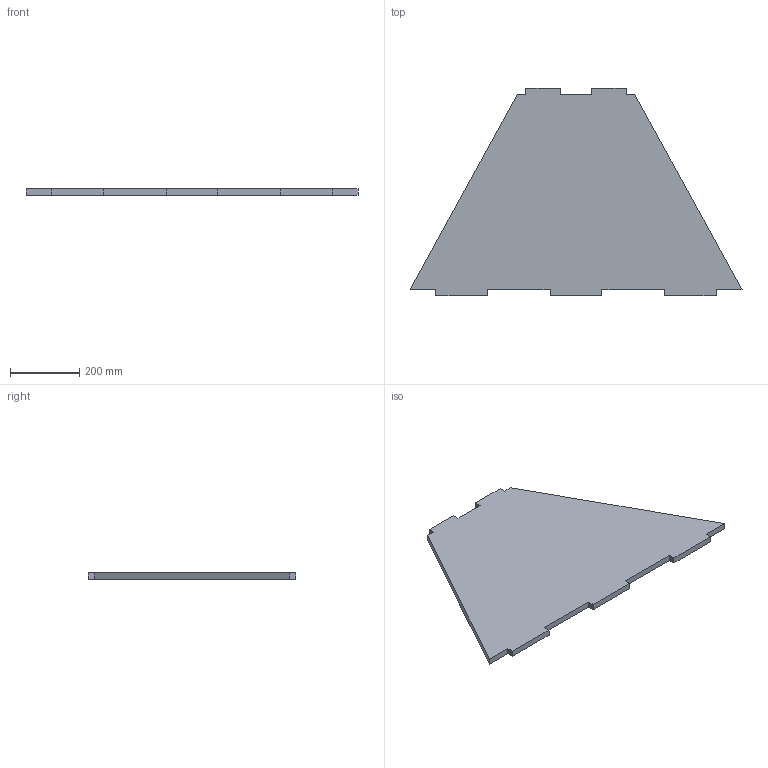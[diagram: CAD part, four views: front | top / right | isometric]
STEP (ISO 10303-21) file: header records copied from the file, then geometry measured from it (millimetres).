
FILE_DESCRIPTION(('Open CASCADE Model'),'2;1');
FILE_NAME('Open CASCADE Shape Model','2026-09-27T09:36:25',('Author'),( 'Open CASCADE'),'Open CASCADE STEP processor 7.9','Open CASCADE 7.9' ,'Unknown');
FILE_SCHEMA(('AUTOMOTIVE_DESIGN { 1 0 10303 214 1 1 1 1 }'));
Length unit declared in the file: millimetre
Products named in the file (1): Open CASCADE STEP translator 7.9 5
Bounding box: 958.92 x 600 x 18 mm (x, y, z)
Volume: 6798439.8 mm3; surface area: 805152.2 mm2
Topology: 1 solids, 1 shells, 26 faces, 72 edges, 48 vertices
Faces by surface type: plane 26
Entity records: 1762 total; most frequent: CARTESIAN_POINT 291, DIRECTION 270, LINE 216, VECTOR 216, ORIENTED_EDGE 144, PCURVE 144, DEFINITIONAL_REPRESENTATION 144, EDGE_CURVE 72
